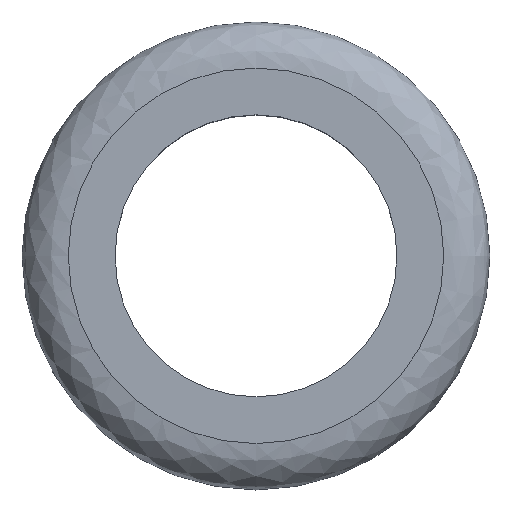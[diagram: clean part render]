
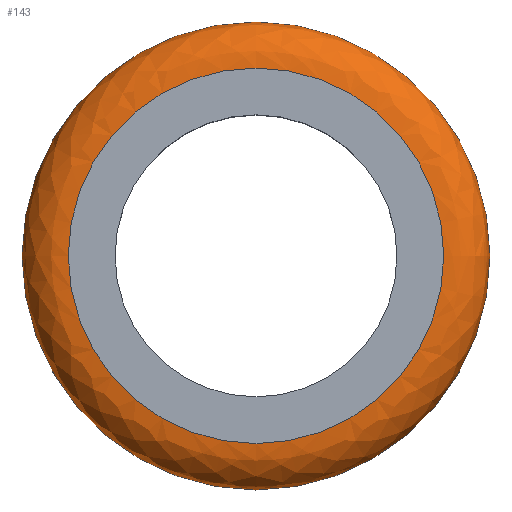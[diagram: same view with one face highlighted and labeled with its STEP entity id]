
A CAD part, top view. The second image highlights one B-rep face of the part: STEP entity #143.
In plain terms, the highlighted free-form (B-spline) face has degree [2, 2] with [3, 9] control points.
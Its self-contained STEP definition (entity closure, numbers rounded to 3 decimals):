
#15=ELLIPSE('',#171,1.8,1.5);
#17=(
BOUNDED_SURFACE()
B_SPLINE_SURFACE(2,2,((#249,#250,#251,#252,#253,#254,#255,#256,#257),(#258,
#259,#260,#261,#262,#263,#264,#265,#266),(#267,#268,#269,#270,#271,#272,
#273,#274,#275)),.UNSPECIFIED.,.F.,.T.,.F.)
B_SPLINE_SURFACE_WITH_KNOTS((3,3),(3,2,2,2,3),(4.712,6.283),
(0.,1.571,3.142,4.712,6.283),
 .UNSPECIFIED.)
GEOMETRIC_REPRESENTATION_ITEM()
RATIONAL_B_SPLINE_SURFACE(((1.,0.707,1.,0.707,1.,
0.707,1.,0.707,1.),(0.707,0.5,
0.707,0.5,0.707,0.5,
0.707,0.5,0.707),(1.,0.707,
1.,0.707,1.,0.707,1.,0.707,1.)))
REPRESENTATION_ITEM('')
SURFACE()
);
#37=FACE_OUTER_BOUND('',#48,.T.);
#48=EDGE_LOOP('',(#108,#109,#110,#111,#112));
#61=CIRCLE('',#169,9.125);
#62=CIRCLE('',#170,9.125);
#63=CIRCLE('',#172,7.325);
#73=VERTEX_POINT('',#244);
#74=VERTEX_POINT('',#245);
#75=VERTEX_POINT('',#276);
#85=EDGE_CURVE('',#73,#74,#61,.T.);
#86=EDGE_CURVE('',#74,#73,#62,.T.);
#88=EDGE_CURVE('',#75,#73,#15,.T.);
#89=EDGE_CURVE('',#75,#75,#63,.T.);
#108=ORIENTED_EDGE('',*,*,#88,.T.);
#109=ORIENTED_EDGE('',*,*,#85,.T.);
#110=ORIENTED_EDGE('',*,*,#86,.T.);
#111=ORIENTED_EDGE('',*,*,#88,.F.);
#112=ORIENTED_EDGE('',*,*,#89,.F.);
#143=ADVANCED_FACE('',(#37),#17,.T.);
#169=AXIS2_PLACEMENT_3D('',#246,#197,#198);
#170=AXIS2_PLACEMENT_3D('',#247,#199,#200);
#171=AXIS2_PLACEMENT_3D('',#277,#202,#203);
#172=AXIS2_PLACEMENT_3D('',#278,#204,#205);
#197=DIRECTION('center_axis',(0.,0.,1.));
#198=DIRECTION('ref_axis',(1.,0.,0.));
#199=DIRECTION('center_axis',(0.,0.,1.));
#200=DIRECTION('ref_axis',(1.,0.,0.));
#202=DIRECTION('center_axis',(0.,1.,0.));
#203=DIRECTION('ref_axis',(1.,0.,0.));
#204=DIRECTION('center_axis',(0.,0.,1.));
#205=DIRECTION('ref_axis',(1.,0.,0.));
#244=CARTESIAN_POINT('',(9.125,0.,2.35));
#245=CARTESIAN_POINT('',(-9.125,0.,2.35));
#246=CARTESIAN_POINT('Origin',(0.,0.,2.35));
#247=CARTESIAN_POINT('Origin',(0.,0.,2.35));
#249=CARTESIAN_POINT('Ctrl Pts',(7.325,0.,3.85));
#250=CARTESIAN_POINT('Ctrl Pts',(7.325,7.325,3.85));
#251=CARTESIAN_POINT('Ctrl Pts',(0.,7.325,3.85));
#252=CARTESIAN_POINT('Ctrl Pts',(-7.325,7.325,3.85));
#253=CARTESIAN_POINT('Ctrl Pts',(-7.325,0.,3.85));
#254=CARTESIAN_POINT('Ctrl Pts',(-7.325,-7.325,3.85));
#255=CARTESIAN_POINT('Ctrl Pts',(0.,-7.325,3.85));
#256=CARTESIAN_POINT('Ctrl Pts',(7.325,-7.325,3.85));
#257=CARTESIAN_POINT('Ctrl Pts',(7.325,0.,3.85));
#258=CARTESIAN_POINT('Ctrl Pts',(9.125,0.,3.85));
#259=CARTESIAN_POINT('Ctrl Pts',(9.125,9.125,3.85));
#260=CARTESIAN_POINT('Ctrl Pts',(0.,9.125,3.85));
#261=CARTESIAN_POINT('Ctrl Pts',(-9.125,9.125,3.85));
#262=CARTESIAN_POINT('Ctrl Pts',(-9.125,0.,3.85));
#263=CARTESIAN_POINT('Ctrl Pts',(-9.125,-9.125,3.85));
#264=CARTESIAN_POINT('Ctrl Pts',(0.,-9.125,3.85));
#265=CARTESIAN_POINT('Ctrl Pts',(9.125,-9.125,3.85));
#266=CARTESIAN_POINT('Ctrl Pts',(9.125,0.,3.85));
#267=CARTESIAN_POINT('Ctrl Pts',(9.125,0.,2.35));
#268=CARTESIAN_POINT('Ctrl Pts',(9.125,9.125,2.35));
#269=CARTESIAN_POINT('Ctrl Pts',(0.,9.125,2.35));
#270=CARTESIAN_POINT('Ctrl Pts',(-9.125,9.125,2.35));
#271=CARTESIAN_POINT('Ctrl Pts',(-9.125,0.,2.35));
#272=CARTESIAN_POINT('Ctrl Pts',(-9.125,-9.125,2.35));
#273=CARTESIAN_POINT('Ctrl Pts',(0.,-9.125,2.35));
#274=CARTESIAN_POINT('Ctrl Pts',(9.125,-9.125,2.35));
#275=CARTESIAN_POINT('Ctrl Pts',(9.125,0.,2.35));
#276=CARTESIAN_POINT('',(7.325,0.,3.85));
#277=CARTESIAN_POINT('Origin',(7.325,0.,2.35));
#278=CARTESIAN_POINT('Origin',(0.,0.,3.85));
